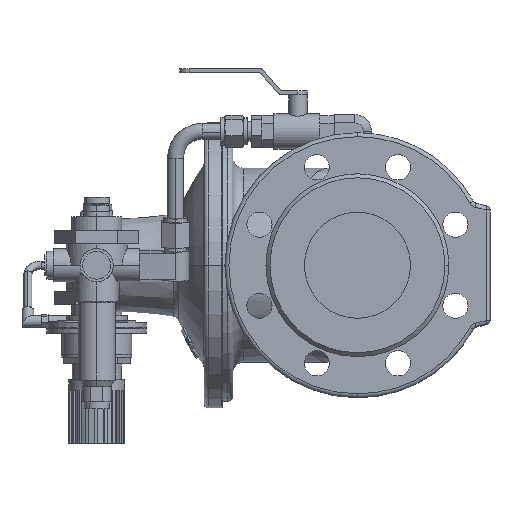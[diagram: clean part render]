
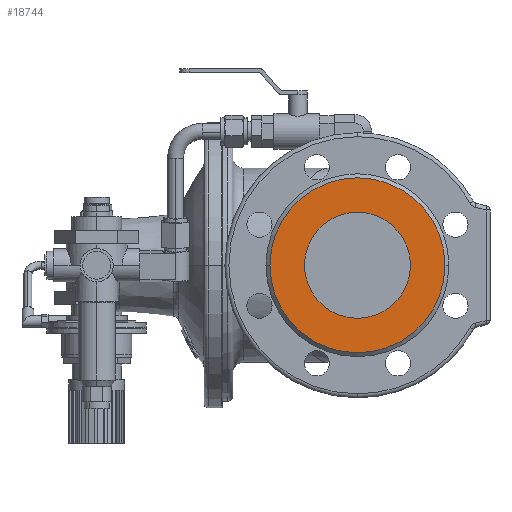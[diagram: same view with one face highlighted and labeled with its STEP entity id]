
A CAD part, left-side view. The second image highlights one B-rep face of the part: STEP entity #18744.
In plain terms, the highlighted planar face has unit normal (-1, 0, 0).
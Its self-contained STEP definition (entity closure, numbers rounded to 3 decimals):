
#855 = AXIS2_PLACEMENT_3D ( 'NONE', #29945, #11692, #29275 ) ;
#1865 = ORIENTED_EDGE ( 'NONE', *, *, #10810, .F. ) ;
#2264 = FACE_BOUND ( 'NONE', #29592, .T. ) ;
#2394 = DIRECTION ( 'NONE',  ( 0., 1., 0. ) ) ;
#2428 = PLANE ( 'NONE',  #22193 ) ;
#2908 = EDGE_LOOP ( 'NONE', ( #1865, #23220 ) ) ;
#4091 = VERTEX_POINT ( 'NONE', #8915 ) ;
#4623 = DIRECTION ( 'NONE',  ( 1., 0., 0. ) ) ;
#5243 = CARTESIAN_POINT ( 'NONE',  ( -155., 0., 0. ) ) ;
#5557 = VERTEX_POINT ( 'NONE', #20956 ) ;
#7223 = CARTESIAN_POINT ( 'NONE',  ( -155., 40., 0. ) ) ;
#8126 = ORIENTED_EDGE ( 'NONE', *, *, #30640, .T. ) ;
#8915 = CARTESIAN_POINT ( 'NONE',  ( -155., -66., 0. ) ) ;
#10802 = AXIS2_PLACEMENT_3D ( 'NONE', #5243, #28940, #31814 ) ;
#10810 = EDGE_CURVE ( 'Defeatured_0_40+Defeatured_0_39+Defeatured_0_39+Defeatured_0_39', #19035, #4091, #33096, .T. ) ;
#11692 = DIRECTION ( 'NONE',  ( 1., 0., 0. ) ) ;
#15388 = CARTESIAN_POINT ( 'NONE',  ( -155., 0., 0. ) ) ;
#16123 = CIRCLE ( 'NONE', #20468, 40. ) ;
#17968 = FACE_OUTER_BOUND ( 'NONE', #2908, .T. ) ;
#18044 = CARTESIAN_POINT ( 'NONE',  ( -155., 0., 40. ) ) ;
#18102 = CARTESIAN_POINT ( 'NONE',  ( -155., 0., 0. ) ) ;
#18744 = ADVANCED_FACE ( 'Defeatured_0_39', ( #2264, #17968 ), #2428, .T. ) ;
#19035 = VERTEX_POINT ( 'NONE', #22364 ) ;
#20005 = DIRECTION ( 'NONE',  ( 0., -1., 0. ) ) ;
#20361 = EDGE_CURVE ( 'Defeatured_0_40+Defeatured_0_39+Defeatured_0_39+Defeatured_0_39', #4091, #19035, #25558, .T. ) ;
#20468 = AXIS2_PLACEMENT_3D ( 'NONE', #15388, #27855, #20665 ) ;
#20665 = DIRECTION ( 'NONE',  ( 0., 1., 0. ) ) ;
#20673 = DIRECTION ( 'NONE',  ( -1., 0., 0. ) ) ;
#20956 = CARTESIAN_POINT ( 'NONE',  ( -155., 0., -40. ) ) ;
#22193 = AXIS2_PLACEMENT_3D ( 'NONE', #7223, #20673, #20005 ) ;
#22364 = CARTESIAN_POINT ( 'NONE',  ( -155., 66., 0. ) ) ;
#22817 = AXIS2_PLACEMENT_3D ( 'NONE', #18102, #4623, #2394 ) ;
#23220 = ORIENTED_EDGE ( 'NONE', *, *, #20361, .F. ) ;
#24719 = ORIENTED_EDGE ( 'NONE', *, *, #29770, .T. ) ;
#25558 = CIRCLE ( 'NONE', #22817, 66. ) ;
#27855 = DIRECTION ( 'NONE',  ( 1., 0., 0. ) ) ;
#28940 = DIRECTION ( 'NONE',  ( 1., 0., 0. ) ) ;
#29275 = DIRECTION ( 'NONE',  ( 0., 1., 0. ) ) ;
#29592 = EDGE_LOOP ( 'NONE', ( #24719, #8126 ) ) ;
#29770 = EDGE_CURVE ( 'Defeatured_0_39+Defeatured_0_835+Defeatured_0_835+Defeatured_0_835', #30580, #5557, #16123, .T. ) ;
#29945 = CARTESIAN_POINT ( 'NONE',  ( -155., 0., 0. ) ) ;
#30580 = VERTEX_POINT ( 'NONE', #18044 ) ;
#30640 = EDGE_CURVE ( 'Defeatured_0_39+Defeatured_0_835+Defeatured_0_835+Defeatured_0_835', #5557, #30580, #32954, .T. ) ;
#31814 = DIRECTION ( 'NONE',  ( 0., 1., 0. ) ) ;
#32954 = CIRCLE ( 'NONE', #855, 40. ) ;
#33096 = CIRCLE ( 'NONE', #10802, 66. ) ;
